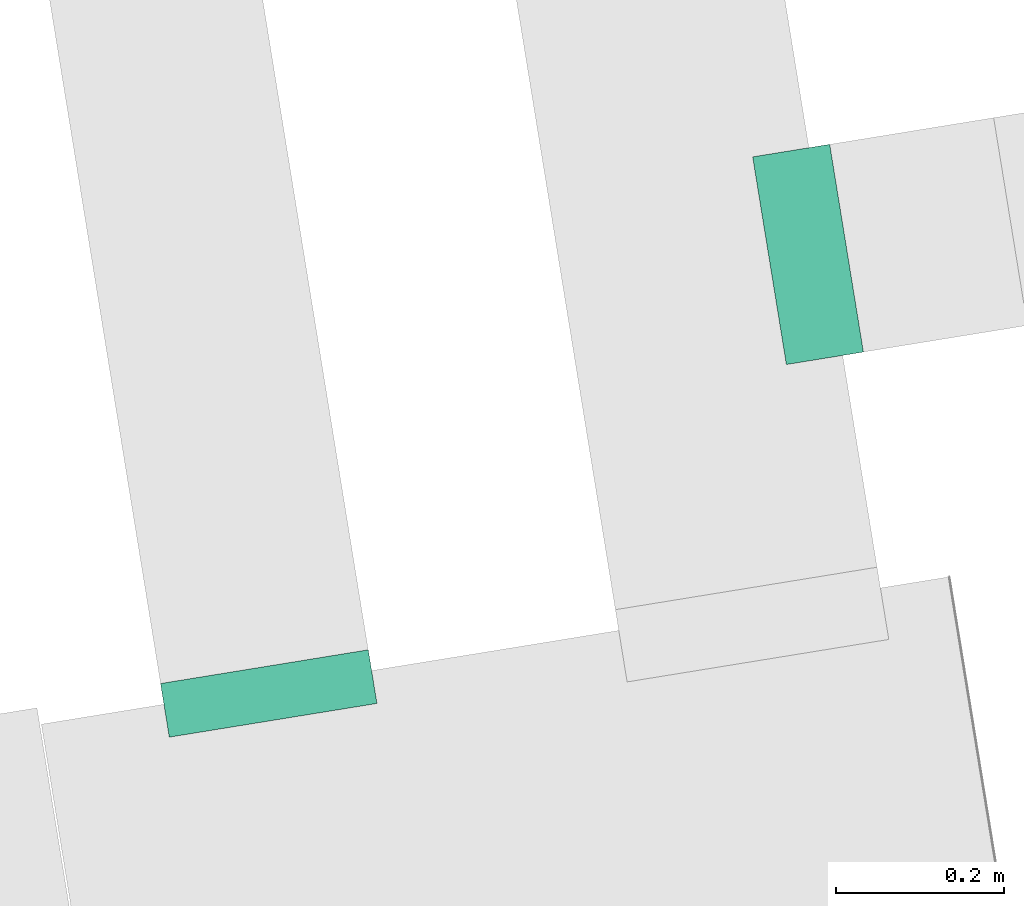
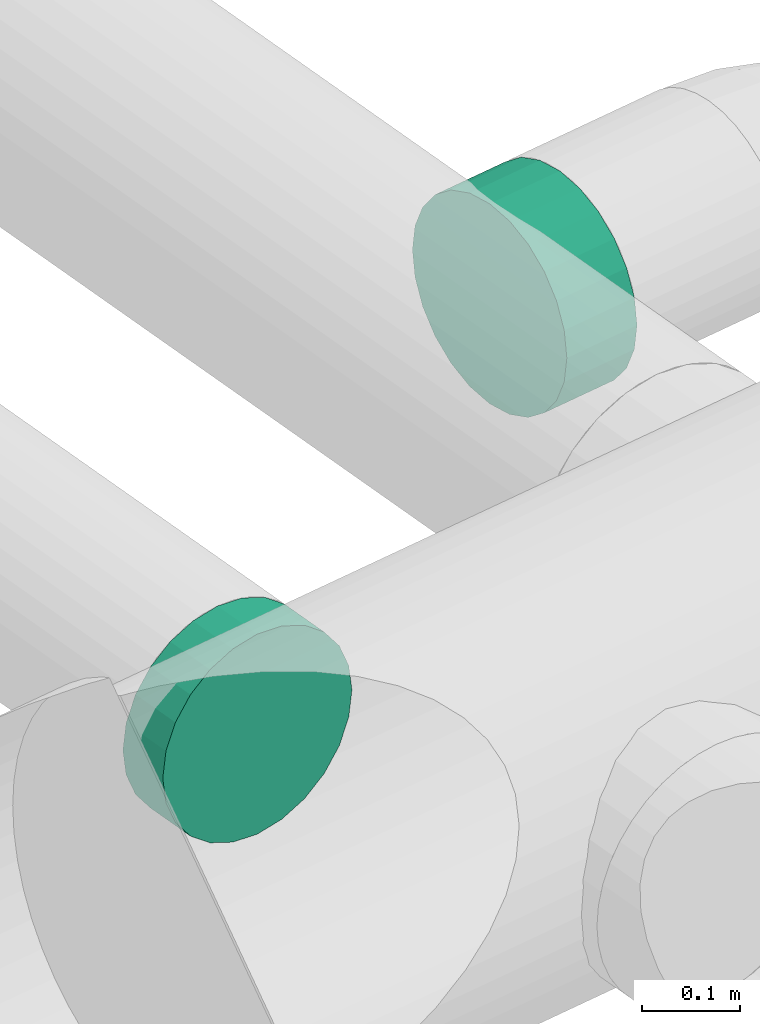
# One storey, part 33 of 39: 2 flow fittings.
"""IFC2X3 building model written with IfcOpenShell, lengths in millimetres."""

from ifc_helpers import new_model, entity, si_unit, converted_unit, derived_unit, direction, frame, origin, origin_with_axes, place, context, subcontext, project, spatial, faceted_brep, source, transform, mapped, material, type_object, element, save


model = new_model("IFC2X3")

# Units and contexts
model_context = context("Model", 3, precision=0.01, world=origin(), true_north=direction((6.12323399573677e-17, 1.0)))
plan_context = context("Plan", 3, precision=1e-05, world=origin_with_axes())
body_context = subcontext(model_context, "Body", "Model", "MODEL_VIEW")
ifc_project = project(units=[converted_unit("PLANEANGLEUNIT", "DEGREE", entity("IfcPositiveLengthMeasure", 0.0174532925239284), si_unit("PLANEANGLEUNIT", "RADIAN"), dimensions=[0, 0, 0, 0, 0, 0, 0]), si_unit("AREAUNIT", "SQUARE_METRE"), si_unit("LENGTHUNIT", "METRE", prefix="MILLI"), si_unit("MASSUNIT", "GRAM", prefix="KILO"), si_unit("POWERUNIT", "WATT"), si_unit("PRESSUREUNIT", "PASCAL", prefix="KILO"), si_unit("FORCEUNIT", "NEWTON", prefix="KILO"), si_unit("ELECTRICVOLTAGEUNIT", "VOLT"), si_unit("ELECTRICCURRENTUNIT", "AMPERE"), si_unit("THERMODYNAMICTEMPERATUREUNIT", "DEGREE_CELSIUS"), si_unit("TIMEUNIT", "SECOND"), si_unit("VOLUMEUNIT", "CUBIC_METRE"), derived_unit("LINEARVELOCITYUNIT", [(si_unit("LENGTHUNIT", "METRE"), 1), (si_unit("TIMEUNIT", "SECOND"), -1)]), derived_unit("VOLUMETRICFLOWRATEUNIT", [(si_unit("VOLUMEUNIT", "CUBIC_METRE"), 1), (si_unit("TIMEUNIT", "SECOND"), -1)]), derived_unit("THERMALTRANSMITTANCEUNIT", [(si_unit("POWERUNIT", "WATT"), 1), (si_unit("THERMODYNAMICTEMPERATUREUNIT", "KELVIN"), -1), (si_unit("AREAUNIT", "SQUARE_METRE"), -1)]), derived_unit("SOUNDPRESSUREUNIT", [(si_unit("PRESSUREUNIT", "PASCAL"), 1)])], contexts=[model_context, plan_context])

# Site, building, storey
site_placement = place(None, frame((-0.00071070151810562, 0.00438415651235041, 0.0), z_axis=(0.0, 0.0, 1.0), x_axis=(-0.160236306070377, 0.987078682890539, 0.0)))
site = spatial("IfcSite", under=ifc_project, at=site_placement, Name="Default", CompositionType="ELEMENT")
building_placement = place(site_placement, origin_with_axes())
building = spatial("IfcBuilding", under=site, at=building_placement, CompositionType="ELEMENT")
storey_placement = place(building_placement, frame((0.0, 0.0, 50999.9999999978), z_axis=(0.0, 0.0, 1.0), x_axis=(1.0, 0.0, 0.0)))
storey = spatial("IfcBuildingStorey", under=building, at=storey_placement, Name="Nivå D", CompositionType="ELEMENT", Elevation=50999.9999999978)

# Flow fittings
ifc_material = material(Name="<Unnamed>")
duct_fitting_type_1 = type_object("IfcDuctFittingType", Name="magicirc_tapoutlet_1:magicirc_tapoutlet_001", PredefinedType="NOTDEFINED", material=ifc_material)
shared_shape_1 = source(origin(), body_context, "Body", "Brep", [
    faceted_brep([(-67.7771605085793, -120.740728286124, 32.3523806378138), (-67.7771605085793, -108.253175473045, 62.4999999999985), (-67.7771605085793, -88.388347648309, 88.3883476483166), (-67.7771605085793, -62.4999999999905, 108.253175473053), (-67.7771605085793, -32.3523806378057, 120.740728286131), (-67.7771605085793, 0.0, 125.0), (-67.7771605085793, 32.3523806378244, 120.740728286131), (-67.7771605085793, 62.5000000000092, 108.253175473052), (-67.7771605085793, 88.3883476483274, 88.3883476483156), (-67.7771605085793, 108.253175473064, 62.4999999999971), (-67.7771605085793, 120.740728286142, 32.3523806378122), (-67.7771605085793, 125.0, 0.0), (-67.7771605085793, 120.740728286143, -32.352380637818), (-67.7771605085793, 108.253175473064, -62.5000000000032), (-67.7771605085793, 88.388347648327, -88.3883476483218), (-67.7771605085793, 62.5000000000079, -108.253175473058), (-67.7771605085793, 32.3523806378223, -120.740728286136), (-67.7771605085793, 0.0, -125.0), (-67.7771605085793, -32.3523806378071, -120.740728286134), (-67.7771605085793, -62.4999999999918, -108.253175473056), (-67.7771605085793, -88.3883476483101, -88.3883476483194), (-67.7771605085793, -108.253175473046, -62.500000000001), (-67.7771605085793, -120.740728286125, -32.3523806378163), (-67.7771605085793, -125.0, 0.0), (0.0, -32.3523806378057, 120.740728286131), (25.0, -32.3523806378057, 120.740728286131), (25.0, 0.0, 125.0), (0.0, 0.0, 125.0), (0.0, -62.4999999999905, 108.253175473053), (25.0, -62.4999999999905, 108.253175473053), (0.0, -88.388347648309, 88.3883476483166), (25.0, -88.388347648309, 88.3883476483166), (0.0, -120.740728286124, 32.3523806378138), (25.0, -120.740728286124, 32.3523806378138), (25.0, -108.253175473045, 62.4999999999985), (0.0, -108.253175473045, 62.4999999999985), (0.0, -125.0, 0.0), (25.0, -125.0, 0.0), (0.0, -120.740728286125, -32.3523806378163), (25.0, -120.740728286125, -32.3523806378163), (0.0, -108.253175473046, -62.500000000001), (25.0, -108.253175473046, -62.500000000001), (0.0, -88.3883476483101, -88.3883476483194), (25.0, -88.3883476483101, -88.3883476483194), (0.0, -32.3523806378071, -120.740728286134), (25.0, -32.3523806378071, -120.740728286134), (25.0, -62.4999999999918, -108.253175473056), (0.0, -62.4999999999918, -108.253175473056), (0.0, 0.0, -125.0), (25.0, 0.0, -125.0), (0.0, 32.3523806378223, -120.740728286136), (25.0, 32.3523806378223, -120.740728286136), (0.0, 62.5000000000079, -108.253175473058), (25.0, 62.5000000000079, -108.253175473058), (0.0, 88.388347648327, -88.3883476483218), (25.0, 88.388347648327, -88.3883476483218), (0.0, 120.740728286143, -32.352380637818), (25.0, 120.740728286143, -32.352380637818), (25.0, 108.253175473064, -62.5000000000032), (0.0, 108.253175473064, -62.5000000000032), (0.0, 125.0, 0.0), (25.0, 125.0, 0.0), (0.0, 120.740728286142, 32.3523806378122), (25.0, 120.740728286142, 32.3523806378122), (0.0, 108.253175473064, 62.4999999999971), (25.0, 108.253175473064, 62.4999999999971), (0.0, 88.3883476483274, 88.3883476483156), (25.0, 88.3883476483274, 88.3883476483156), (0.0, 32.3523806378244, 120.740728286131), (25.0, 32.3523806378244, 120.740728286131), (25.0, 62.5000000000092, 108.253175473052), (0.0, 62.5000000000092, 108.253175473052)], [[[0, 1, 2, 3, 4, 5, 6, 7, 8, 9, 10, 11, 12, 13, 14, 15, 16, 17, 18, 19, 20, 21, 22, 23]], [[24, 25, 26, 27, 5, 4]], [[28, 29, 25, 24, 4, 3]], [[30, 31, 29, 28, 3, 2]], [[32, 33, 34, 35, 1, 0]], [[36, 37, 33, 32, 0, 23]], [[1, 35, 34, 31, 30, 2]], [[38, 39, 37, 36, 23, 22]], [[40, 41, 39, 38, 22, 21]], [[42, 43, 41, 40, 21, 20]], [[44, 45, 46, 47, 19, 18]], [[48, 49, 45, 44, 18, 17]], [[19, 47, 46, 43, 42, 20]], [[50, 51, 49, 48, 17, 16]], [[52, 53, 51, 50, 16, 15]], [[54, 55, 53, 52, 15, 14]], [[56, 57, 58, 59, 13, 12]], [[60, 61, 57, 56, 12, 11]], [[13, 59, 58, 55, 54, 14]], [[62, 63, 61, 60, 11, 10]], [[64, 65, 63, 62, 10, 9]], [[66, 67, 65, 64, 9, 8]], [[68, 69, 70, 71, 7, 6]], [[27, 26, 69, 68, 6, 5]], [[7, 71, 70, 67, 66, 8]], [[49, 51, 53, 55, 58, 57, 61, 63, 65, 67, 70, 69, 26, 25, 29, 31, 34, 33, 37, 39, 41, 43, 46, 45]]]),
    faceted_brep([(25.0, 0.0, -125.0), (25.0, 32.3523806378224, -120.740728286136), (25.0, 62.500000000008, -108.253175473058), (25.0, 88.3883476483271, -88.3883476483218), (25.0, 108.253175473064, -62.5000000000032), (25.0, 120.740728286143, -32.352380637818), (25.0, 125.0, 0.0), (25.0, 120.740728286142, 32.3523806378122), (25.0, 108.253175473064, 62.4999999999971), (25.0, 88.3883476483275, 88.3883476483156), (25.0, 62.5000000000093, 108.253175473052), (25.0, 32.3523806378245, 120.740728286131), (25.0, 0.0, 125.0), (25.0, -32.3523806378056, 120.740728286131), (25.0, -62.4999999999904, 108.253175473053), (25.0, -88.3883476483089, 88.3883476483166), (25.0, -108.253175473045, 62.4999999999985), (25.0, -120.740728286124, 32.3523806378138), (25.0, -125.0, 0.0), (25.0, -120.740728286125, -32.3523806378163), (25.0, -108.253175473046, -62.500000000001), (25.0, -88.38834764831, -88.3883476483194), (25.0, -62.4999999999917, -108.253175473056), (25.0, -32.352380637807, -120.740728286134), (0.0, 0.0, 125.0), (-67.7771605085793, 0.0, 125.0), (-67.7771605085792, -32.3523806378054, 120.740728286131), (0.0, -32.3523806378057, 120.740728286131), (-67.7771605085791, -62.4999999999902, 108.253175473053), (0.0, -62.4999999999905, 108.253175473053), (0.0, -88.388347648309, 88.3883476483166), (-67.777160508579, -88.3883476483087, 88.3883476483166), (0.0, -108.253175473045, 62.4999999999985), (-67.7771605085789, -108.253175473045, 62.4999999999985), (-67.7771605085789, -120.740728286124, 32.3523806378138), (0.0, -120.740728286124, 32.3523806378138), (-67.7771605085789, -125.0, 0.0), (0.0, -125.0, 0.0), (-67.7771605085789, -120.740728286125, -32.3523806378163), (0.0, -120.740728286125, -32.3523806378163), (-67.7771605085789, -108.253175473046, -62.500000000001), (0.0, -108.253175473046, -62.500000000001), (0.0, -88.38834764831, -88.3883476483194), (-67.777160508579, -88.3883476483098, -88.3883476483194), (0.0, 0.0, -125.0), (0.0, -32.352380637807, -120.740728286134), (-67.7771605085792, -32.3523806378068, -120.740728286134), (-67.7771605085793, 0.0, -125.0), (0.0, -62.4999999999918, -108.253175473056), (-67.7771605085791, -62.4999999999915, -108.253175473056), (-67.7771605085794, 32.3523806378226, -120.740728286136), (0.0, 32.3523806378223, -120.740728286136), (-67.7771605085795, 62.5000000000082, -108.253175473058), (0.0, 62.5000000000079, -108.253175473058), (0.0, 88.388347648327, -88.3883476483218), (-67.7771605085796, 88.3883476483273, -88.3883476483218), (0.0, 108.253175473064, -62.5000000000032), (-67.7771605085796, 108.253175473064, -62.5000000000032), (-67.7771605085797, 120.740728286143, -32.352380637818), (0.0, 120.740728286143, -32.352380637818), (-67.7771605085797, 125.0, 0.0), (0.0, 125.0, 0.0), (-67.7771605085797, 120.740728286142, 32.3523806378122), (0.0, 120.740728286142, 32.3523806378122), (-67.7771605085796, 108.253175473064, 62.4999999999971), (0.0, 108.253175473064, 62.499999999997), (0.0, 88.3883476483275, 88.3883476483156), (-67.7771605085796, 88.3883476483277, 88.3883476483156), (0.0, 62.5000000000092, 108.253175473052), (-67.7771605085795, 62.5000000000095, 108.253175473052), (-67.7771605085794, 32.3523806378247, 120.740728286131), (0.0, 32.3523806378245, 120.740728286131)], [[[0, 1, 2, 3, 4, 5, 6, 7, 8, 9, 10, 11, 12, 13, 14, 15, 16, 17, 18, 19, 20, 21, 22, 23]], [[13, 12, 24, 25, 26, 27]], [[14, 13, 27, 26, 28, 29]], [[30, 15, 14, 29, 28, 31]], [[17, 16, 32, 33, 34, 35]], [[18, 17, 35, 34, 36, 37]], [[32, 16, 15, 30, 31, 33]], [[19, 18, 37, 36, 38, 39]], [[20, 19, 39, 38, 40, 41]], [[42, 21, 20, 41, 40, 43]], [[44, 0, 23, 45, 46, 47]], [[45, 23, 22, 48, 49, 46]], [[48, 22, 21, 42, 43, 49]], [[1, 0, 44, 47, 50, 51]], [[2, 1, 51, 50, 52, 53]], [[54, 3, 2, 53, 52, 55]], [[5, 4, 56, 57, 58, 59]], [[6, 5, 59, 58, 60, 61]], [[56, 4, 3, 54, 55, 57]], [[7, 6, 61, 60, 62, 63]], [[8, 7, 63, 62, 64, 65]], [[66, 9, 8, 65, 64, 67]], [[11, 10, 68, 69, 70, 71]], [[12, 11, 71, 70, 25, 24]], [[68, 10, 9, 66, 67, 69]], [[34, 33, 31, 28, 26, 25, 70, 69, 67, 64, 62, 60, 58, 57, 55, 52, 50, 47, 46, 49, 43, 40, 38, 36]]]),
    faceted_brep([(-67.7771605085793, -120.740728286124, 32.3523806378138), (-67.7771605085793, -108.253175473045, 62.4999999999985), (-67.7771605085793, -88.388347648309, 88.3883476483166), (-67.7771605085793, -62.4999999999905, 108.253175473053), (-67.7771605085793, -32.3523806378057, 120.740728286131), (-67.7771605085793, 0.0, 125.0), (-67.7771605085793, 32.3523806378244, 120.740728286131), (-67.7771605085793, 62.5000000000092, 108.253175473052), (-67.7771605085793, 88.3883476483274, 88.3883476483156), (-67.7771605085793, 108.253175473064, 62.4999999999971), (-67.7771605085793, 120.740728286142, 32.3523806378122), (-67.7771605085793, 125.0, 0.0), (-67.7771605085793, 120.740728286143, -32.352380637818), (-67.7771605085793, 108.253175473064, -62.5000000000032), (-67.7771605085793, 88.388347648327, -88.3883476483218), (-67.7771605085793, 62.5000000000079, -108.253175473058), (-67.7771605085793, 32.3523806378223, -120.740728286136), (-67.7771605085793, 0.0, -125.0), (-67.7771605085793, -32.3523806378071, -120.740728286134), (-67.7771605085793, -62.4999999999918, -108.253175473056), (-67.7771605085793, -88.3883476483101, -88.3883476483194), (-67.7771605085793, -108.253175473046, -62.500000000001), (-67.7771605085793, -120.740728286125, -32.3523806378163), (-67.7771605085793, -125.0, 0.0), (0.0, -32.3523806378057, 120.740728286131), (25.0, -32.3523806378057, 120.740728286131), (25.0, 0.0, 125.0), (0.0, 0.0, 125.0), (0.0, -62.4999999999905, 108.253175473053), (25.0, -62.4999999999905, 108.253175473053), (0.0, -88.388347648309, 88.3883476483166), (25.0, -88.388347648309, 88.3883476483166), (0.0, -120.740728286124, 32.3523806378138), (25.0, -120.740728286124, 32.3523806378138), (25.0, -108.253175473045, 62.4999999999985), (0.0, -108.253175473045, 62.4999999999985), (0.0, -125.0, 0.0), (25.0, -125.0, 0.0), (0.0, -120.740728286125, -32.3523806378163), (25.0, -120.740728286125, -32.3523806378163), (0.0, -108.253175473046, -62.500000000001), (25.0, -108.253175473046, -62.500000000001), (0.0, -88.3883476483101, -88.3883476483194), (25.0, -88.3883476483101, -88.3883476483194), (0.0, -32.3523806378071, -120.740728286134), (25.0, -32.3523806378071, -120.740728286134), (25.0, -62.4999999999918, -108.253175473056), (0.0, -62.4999999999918, -108.253175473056), (0.0, 0.0, -125.0), (25.0, 0.0, -125.0), (0.0, 32.3523806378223, -120.740728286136), (25.0, 32.3523806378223, -120.740728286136), (0.0, 62.5000000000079, -108.253175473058), (25.0, 62.5000000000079, -108.253175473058), (0.0, 88.388347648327, -88.3883476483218), (25.0, 88.388347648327, -88.3883476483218), (0.0, 120.740728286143, -32.352380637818), (25.0, 120.740728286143, -32.352380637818), (25.0, 108.253175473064, -62.5000000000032), (0.0, 108.253175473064, -62.5000000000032), (0.0, 125.0, 0.0), (25.0, 125.0, 0.0), (0.0, 120.740728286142, 32.3523806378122), (25.0, 120.740728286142, 32.3523806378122), (0.0, 108.253175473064, 62.4999999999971), (25.0, 108.253175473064, 62.4999999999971), (0.0, 88.3883476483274, 88.3883476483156), (25.0, 88.3883476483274, 88.3883476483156), (0.0, 32.3523806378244, 120.740728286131), (25.0, 32.3523806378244, 120.740728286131), (25.0, 62.5000000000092, 108.253175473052), (0.0, 62.5000000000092, 108.253175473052)], [[[0, 1, 2, 3, 4, 5, 6, 7, 8, 9, 10, 11, 12, 13, 14, 15, 16, 17, 18, 19, 20, 21, 22, 23]], [[24, 25, 26, 27, 5, 4]], [[28, 29, 25, 24, 4, 3]], [[30, 31, 29, 28, 3, 2]], [[32, 33, 34, 35, 1, 0]], [[36, 37, 33, 32, 0, 23]], [[1, 35, 34, 31, 30, 2]], [[38, 39, 37, 36, 23, 22]], [[40, 41, 39, 38, 22, 21]], [[42, 43, 41, 40, 21, 20]], [[44, 45, 46, 47, 19, 18]], [[48, 49, 45, 44, 18, 17]], [[19, 47, 46, 43, 42, 20]], [[50, 51, 49, 48, 17, 16]], [[52, 53, 51, 50, 16, 15]], [[54, 55, 53, 52, 15, 14]], [[56, 57, 58, 59, 13, 12]], [[60, 61, 57, 56, 12, 11]], [[13, 59, 58, 55, 54, 14]], [[62, 63, 61, 60, 11, 10]], [[64, 65, 63, 62, 10, 9]], [[66, 67, 65, 64, 9, 8]], [[68, 69, 70, 71, 7, 6]], [[27, 26, 69, 68, 6, 5]], [[7, 71, 70, 67, 66, 8]], [[49, 51, 53, 55, 58, 57, 61, 63, 65, 67, 70, 69, 26, 25, 29, 31, 34, 33, 37, 39, 41, 43, 46, 45]]]),
])
flow_fitting_1_placement = place(storey_placement, frame((773669.479289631, -600170.080498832, 3310.0), z_axis=(0.0, 0.0, -1.0), x_axis=(0.0, -1.0, 0.0)))
element("IfcFlowFitting", 1, at=flow_fitting_1_placement, inside=storey, type_object=duct_fitting_type_1, material=ifc_material, Name="magicirc_tapoutlet_1:magicirc_tapoutlet_001", ObjectType="magicirc_tapoutlet_1:magicirc_tapoutlet_001", context=body_context, shape_type="MappedRepresentation", body=[
    mapped(shared_shape_1, transform((0.0, 0.0, 0.0), scale=1.0)),
])
duct_fitting_type_2 = type_object("IfcDuctFittingType", Name="magicirc_tapoutlet_1:magicirc_tapoutlet_001", PredefinedType="NOTDEFINED", material=ifc_material)
shared_shape_2 = source(origin(), body_context, "Body", "Brep", [
    faceted_brep([(-39.5896490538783, 0.0, -125.0), (-39.5896490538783, -32.3523806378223, -120.740728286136), (-39.5896490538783, -62.500000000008, -108.253175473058), (-39.5896490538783, -88.3883476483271, -88.3883476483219), (-39.5896490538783, -108.253175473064, -62.5000000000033), (-39.5896490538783, -120.740728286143, -32.352380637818), (-39.5896490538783, -125.0, 0.0), (-39.5896490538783, -120.740728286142, 32.3523806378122), (-39.5896490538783, -108.253175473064, 62.4999999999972), (-39.5896490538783, -88.3883476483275, 88.3883476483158), (-39.5896490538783, -62.5000000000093, 108.253175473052), (-39.5896490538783, -32.3523806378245, 120.740728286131), (-39.5896490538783, 0.0, 125.0), (-39.5896490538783, 32.3523806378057, 120.740728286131), (-39.5896490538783, 62.4999999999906, 108.253175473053), (-39.5896490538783, 88.3883476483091, 88.3883476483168), (-39.5896490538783, 108.253175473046, 62.4999999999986), (-39.5896490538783, 120.740728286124, 32.3523806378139), (-39.5896490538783, 125.0, 0.0), (-39.5896490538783, 120.740728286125, -32.3523806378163), (-39.5896490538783, 108.253175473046, -62.5000000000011), (-39.5896490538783, 88.3883476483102, -88.3883476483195), (-39.5896490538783, 62.4999999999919, -108.253175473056), (-39.5896490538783, 32.3523806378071, -120.740728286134), (0.0, 0.0, 125.0), (25.0, 0.0, 125.0), (25.0, 32.3523806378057, 120.740728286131), (0.0, 32.3523806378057, 120.740728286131), (25.0, 62.4999999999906, 108.253175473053), (0.0, 62.4999999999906, 108.253175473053), (25.0, 88.3883476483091, 88.3883476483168), (0.0, 88.3883476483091, 88.3883476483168), (0.0, 108.253175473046, 62.4999999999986), (25.0, 108.253175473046, 62.4999999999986), (25.0, 120.740728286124, 32.3523806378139), (0.0, 120.740728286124, 32.3523806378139), (25.0, 125.0, 0.0), (0.0, 125.0, 0.0), (25.0, 120.740728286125, -32.3523806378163), (0.0, 120.740728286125, -32.3523806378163), (25.0, 108.253175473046, -62.5000000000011), (0.0, 108.253175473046, -62.5000000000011), (25.0, 88.3883476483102, -88.3883476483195), (0.0, 88.3883476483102, -88.3883476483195), (0.0, 32.3523806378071, -120.740728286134), (25.0, 32.3523806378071, -120.740728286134), (25.0, 0.0, -125.0), (0.0, 0.0, -125.0), (0.0, 62.4999999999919, -108.253175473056), (25.0, 62.4999999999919, -108.253175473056), (25.0, -32.3523806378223, -120.740728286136), (0.0, -32.3523806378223, -120.740728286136), (25.0, -62.500000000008, -108.253175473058), (0.0, -62.500000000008, -108.253175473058), (25.0, -88.3883476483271, -88.3883476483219), (0.0, -88.3883476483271, -88.3883476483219), (0.0, -108.253175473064, -62.5000000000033), (25.0, -108.253175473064, -62.5000000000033), (25.0, -120.740728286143, -32.352380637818), (0.0, -120.740728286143, -32.352380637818), (25.0, -125.0, 0.0), (0.0, -125.0, 0.0), (25.0, -120.740728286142, 32.3523806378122), (0.0, -120.740728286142, 32.3523806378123), (25.0, -108.253175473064, 62.4999999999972), (0.0, -108.253175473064, 62.4999999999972), (25.0, -88.3883476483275, 88.3883476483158), (0.0, -88.3883476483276, 88.3883476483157), (0.0, -62.5000000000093, 108.253175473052), (25.0, -62.5000000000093, 108.253175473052), (25.0, -32.3523806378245, 120.740728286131), (0.0, -32.3523806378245, 120.740728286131)], [[[0, 1, 2, 3, 4, 5, 6, 7, 8, 9, 10, 11, 12, 13, 14, 15, 16, 17, 18, 19, 20, 21, 22, 23]], [[12, 24, 25, 26, 27, 13]], [[13, 27, 26, 28, 29, 14]], [[14, 29, 28, 30, 31, 15]], [[16, 32, 33, 34, 35, 17]], [[17, 35, 34, 36, 37, 18]], [[15, 31, 30, 33, 32, 16]], [[18, 37, 36, 38, 39, 19]], [[19, 39, 38, 40, 41, 20]], [[20, 41, 40, 42, 43, 21]], [[44, 45, 46, 47, 0, 23]], [[48, 49, 45, 44, 23, 22]], [[21, 43, 42, 49, 48, 22]], [[0, 47, 46, 50, 51, 1]], [[1, 51, 50, 52, 53, 2]], [[2, 53, 52, 54, 55, 3]], [[4, 56, 57, 58, 59, 5]], [[5, 59, 58, 60, 61, 6]], [[3, 55, 54, 57, 56, 4]], [[6, 61, 60, 62, 63, 7]], [[7, 63, 62, 64, 65, 8]], [[8, 65, 64, 66, 67, 9]], [[10, 68, 69, 70, 71, 11]], [[11, 71, 70, 25, 24, 12]], [[9, 67, 66, 69, 68, 10]], [[45, 49, 42, 40, 38, 36, 34, 33, 30, 28, 26, 25, 70, 69, 66, 64, 62, 60, 58, 57, 54, 52, 50, 46]]]),
    faceted_brep([(25.0, 32.352380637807, -120.740728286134), (25.0, 62.4999999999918, -108.253175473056), (25.0, 88.3883476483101, -88.3883476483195), (25.0, 108.253175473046, -62.5000000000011), (25.0, 120.740728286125, -32.3523806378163), (25.0, 125.0, 0.0), (25.0, 120.740728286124, 32.3523806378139), (25.0, 108.253175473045, 62.4999999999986), (25.0, 88.388347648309, 88.3883476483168), (25.0, 62.4999999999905, 108.253175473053), (25.0, 32.3523806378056, 120.740728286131), (25.0, 0.0, 125.0), (25.0, -32.3523806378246, 120.740728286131), (25.0, -62.5000000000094, 108.253175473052), (25.0, -88.3883476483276, 88.3883476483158), (25.0, -108.253175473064, 62.4999999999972), (25.0, -120.740728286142, 32.3523806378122), (25.0, -125.0, 0.0), (25.0, -120.740728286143, -32.352380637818), (25.0, -108.253175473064, -62.5000000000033), (25.0, -88.3883476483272, -88.3883476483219), (25.0, -62.500000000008, -108.253175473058), (25.0, -32.3523806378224, -120.740728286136), (25.0, 0.0, -125.0), (0.0, 0.0, 125.0), (0.0, 32.3523806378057, 120.740728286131), (-39.5896490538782, 32.3523806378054, 120.740728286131), (-39.5896490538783, 0.0, 125.0), (0.0, 62.4999999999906, 108.253175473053), (-39.5896490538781, 62.4999999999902, 108.253175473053), (0.0, 88.3883476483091, 88.3883476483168), (-39.589649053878, 88.3883476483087, 88.3883476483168), (0.0, 108.253175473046, 62.4999999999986), (0.0, 120.740728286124, 32.3523806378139), (-39.5896490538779, 120.740728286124, 32.3523806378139), (-39.5896490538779, 108.253175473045, 62.4999999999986), (0.0, 125.0, 0.0), (-39.5896490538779, 125.0, 0.0), (0.0, 120.740728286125, -32.3523806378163), (-39.5896490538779, 120.740728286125, -32.3523806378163), (0.0, 108.253175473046, -62.5000000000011), (-39.5896490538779, 108.253175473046, -62.5000000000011), (0.0, 88.3883476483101, -88.3883476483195), (-39.589649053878, 88.3883476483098, -88.3883476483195), (0.0, 0.0, -125.0), (-39.5896490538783, 0.0, -125.0), (-39.5896490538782, 32.3523806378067, -120.740728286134), (0.0, 32.3523806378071, -120.740728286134), (-39.5896490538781, 62.4999999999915, -108.253175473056), (0.0, 62.4999999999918, -108.253175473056), (0.0, -32.3523806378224, -120.740728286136), (-39.5896490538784, -32.3523806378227, -120.740728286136), (0.0, -62.500000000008, -108.253175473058), (-39.5896490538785, -62.5000000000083, -108.253175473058), (0.0, -88.3883476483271, -88.3883476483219), (-39.5896490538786, -88.3883476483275, -88.3883476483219), (0.0, -108.253175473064, -62.5000000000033), (0.0, -120.740728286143, -32.352380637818), (-39.5896490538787, -120.740728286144, -32.352380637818), (-39.5896490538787, -108.253175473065, -62.5000000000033), (0.0, -125.0, 0.0), (-39.5896490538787, -125.0, 0.0), (0.0, -120.740728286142, 32.3523806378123), (-39.5896490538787, -120.740728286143, 32.3523806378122), (0.0, -108.253175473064, 62.4999999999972), (-39.5896490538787, -108.253175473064, 62.4999999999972), (0.0, -88.3883476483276, 88.3883476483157), (-39.5896490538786, -88.3883476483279, 88.3883476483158), (0.0, -62.5000000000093, 108.253175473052), (0.0, -32.3523806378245, 120.740728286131), (-39.5896490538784, -32.3523806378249, 120.740728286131), (-39.5896490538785, -62.5000000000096, 108.253175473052)], [[[0, 1, 2, 3, 4, 5, 6, 7, 8, 9, 10, 11, 12, 13, 14, 15, 16, 17, 18, 19, 20, 21, 22, 23]], [[24, 11, 10, 25, 26, 27]], [[25, 10, 9, 28, 29, 26]], [[28, 9, 8, 30, 31, 29]], [[32, 7, 6, 33, 34, 35]], [[33, 6, 5, 36, 37, 34]], [[30, 8, 7, 32, 35, 31]], [[36, 5, 4, 38, 39, 37]], [[38, 4, 3, 40, 41, 39]], [[40, 3, 2, 42, 43, 41]], [[0, 23, 44, 45, 46, 47]], [[1, 0, 47, 46, 48, 49]], [[42, 2, 1, 49, 48, 43]], [[44, 23, 22, 50, 51, 45]], [[50, 22, 21, 52, 53, 51]], [[52, 21, 20, 54, 55, 53]], [[56, 19, 18, 57, 58, 59]], [[57, 18, 17, 60, 61, 58]], [[54, 20, 19, 56, 59, 55]], [[60, 17, 16, 62, 63, 61]], [[62, 16, 15, 64, 65, 63]], [[64, 15, 14, 66, 67, 65]], [[68, 13, 12, 69, 70, 71]], [[69, 12, 11, 24, 27, 70]], [[66, 14, 13, 68, 71, 67]], [[45, 51, 53, 55, 59, 58, 61, 63, 65, 67, 71, 70, 27, 26, 29, 31, 35, 34, 37, 39, 41, 43, 48, 46]]]),
    faceted_brep([(-39.5896490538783, 0.0, -125.0), (-39.5896490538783, -32.3523806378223, -120.740728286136), (-39.5896490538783, -62.500000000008, -108.253175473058), (-39.5896490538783, -88.3883476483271, -88.3883476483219), (-39.5896490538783, -108.253175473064, -62.5000000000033), (-39.5896490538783, -120.740728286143, -32.352380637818), (-39.5896490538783, -125.0, 0.0), (-39.5896490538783, -120.740728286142, 32.3523806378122), (-39.5896490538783, -108.253175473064, 62.4999999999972), (-39.5896490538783, -88.3883476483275, 88.3883476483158), (-39.5896490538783, -62.5000000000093, 108.253175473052), (-39.5896490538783, -32.3523806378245, 120.740728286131), (-39.5896490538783, 0.0, 125.0), (-39.5896490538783, 32.3523806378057, 120.740728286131), (-39.5896490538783, 62.4999999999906, 108.253175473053), (-39.5896490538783, 88.3883476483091, 88.3883476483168), (-39.5896490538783, 108.253175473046, 62.4999999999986), (-39.5896490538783, 120.740728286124, 32.3523806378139), (-39.5896490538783, 125.0, 0.0), (-39.5896490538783, 120.740728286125, -32.3523806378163), (-39.5896490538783, 108.253175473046, -62.5000000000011), (-39.5896490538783, 88.3883476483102, -88.3883476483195), (-39.5896490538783, 62.4999999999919, -108.253175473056), (-39.5896490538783, 32.3523806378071, -120.740728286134), (0.0, 0.0, 125.0), (25.0, 0.0, 125.0), (25.0, 32.3523806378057, 120.740728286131), (0.0, 32.3523806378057, 120.740728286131), (25.0, 62.4999999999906, 108.253175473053), (0.0, 62.4999999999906, 108.253175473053), (25.0, 88.3883476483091, 88.3883476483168), (0.0, 88.3883476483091, 88.3883476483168), (0.0, 108.253175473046, 62.4999999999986), (25.0, 108.253175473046, 62.4999999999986), (25.0, 120.740728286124, 32.3523806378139), (0.0, 120.740728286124, 32.3523806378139), (25.0, 125.0, 0.0), (0.0, 125.0, 0.0), (25.0, 120.740728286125, -32.3523806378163), (0.0, 120.740728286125, -32.3523806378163), (25.0, 108.253175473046, -62.5000000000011), (0.0, 108.253175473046, -62.5000000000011), (25.0, 88.3883476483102, -88.3883476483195), (0.0, 88.3883476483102, -88.3883476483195), (0.0, 32.3523806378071, -120.740728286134), (25.0, 32.3523806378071, -120.740728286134), (25.0, 0.0, -125.0), (0.0, 0.0, -125.0), (0.0, 62.4999999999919, -108.253175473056), (25.0, 62.4999999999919, -108.253175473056), (25.0, -32.3523806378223, -120.740728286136), (0.0, -32.3523806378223, -120.740728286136), (25.0, -62.500000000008, -108.253175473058), (0.0, -62.500000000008, -108.253175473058), (25.0, -88.3883476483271, -88.3883476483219), (0.0, -88.3883476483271, -88.3883476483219), (0.0, -108.253175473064, -62.5000000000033), (25.0, -108.253175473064, -62.5000000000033), (25.0, -120.740728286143, -32.352380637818), (0.0, -120.740728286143, -32.352380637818), (25.0, -125.0, 0.0), (0.0, -125.0, 0.0), (25.0, -120.740728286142, 32.3523806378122), (0.0, -120.740728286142, 32.3523806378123), (25.0, -108.253175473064, 62.4999999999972), (0.0, -108.253175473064, 62.4999999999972), (25.0, -88.3883476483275, 88.3883476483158), (0.0, -88.3883476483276, 88.3883476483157), (0.0, -62.5000000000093, 108.253175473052), (25.0, -62.5000000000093, 108.253175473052), (25.0, -32.3523806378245, 120.740728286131), (0.0, -32.3523806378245, 120.740728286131)], [[[0, 1, 2, 3, 4, 5, 6, 7, 8, 9, 10, 11, 12, 13, 14, 15, 16, 17, 18, 19, 20, 21, 22, 23]], [[12, 24, 25, 26, 27, 13]], [[13, 27, 26, 28, 29, 14]], [[14, 29, 28, 30, 31, 15]], [[16, 32, 33, 34, 35, 17]], [[17, 35, 34, 36, 37, 18]], [[15, 31, 30, 33, 32, 16]], [[18, 37, 36, 38, 39, 19]], [[19, 39, 38, 40, 41, 20]], [[20, 41, 40, 42, 43, 21]], [[44, 45, 46, 47, 0, 23]], [[48, 49, 45, 44, 23, 22]], [[21, 43, 42, 49, 48, 22]], [[0, 47, 46, 50, 51, 1]], [[1, 51, 50, 52, 53, 2]], [[2, 53, 52, 54, 55, 3]], [[4, 56, 57, 58, 59, 5]], [[5, 59, 58, 60, 61, 6]], [[3, 55, 54, 57, 56, 4]], [[6, 61, 60, 62, 63, 7]], [[7, 63, 62, 64, 65, 8]], [[8, 65, 64, 66, 67, 9]], [[10, 68, 69, 70, 71, 11]], [[11, 71, 70, 25, 24, 12]], [[9, 67, 66, 69, 68, 10]], [[45, 49, 42, 40, 38, 36, 34, 33, 30, 28, 26, 25, 70, 69, 66, 64, 62, 60, 58, 57, 54, 52, 50, 46]]]),
])
flow_fitting_2_placement = place(storey_placement, frame((773264.47928963, -599432.555921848, 3310.0), z_axis=(0.0, 0.0, -1.0), x_axis=(1.0, 0.0, 0.0)))
element("IfcFlowFitting", 2, at=flow_fitting_2_placement, inside=storey, type_object=duct_fitting_type_2, material=ifc_material, Name="magicirc_tapoutlet_1:magicirc_tapoutlet_001", ObjectType="magicirc_tapoutlet_1:magicirc_tapoutlet_001", context=body_context, shape_type="MappedRepresentation", body=[
    mapped(shared_shape_2, transform((0.0, 0.0, 0.0), scale=1.0)),
])

save(model, "model.ifc")
